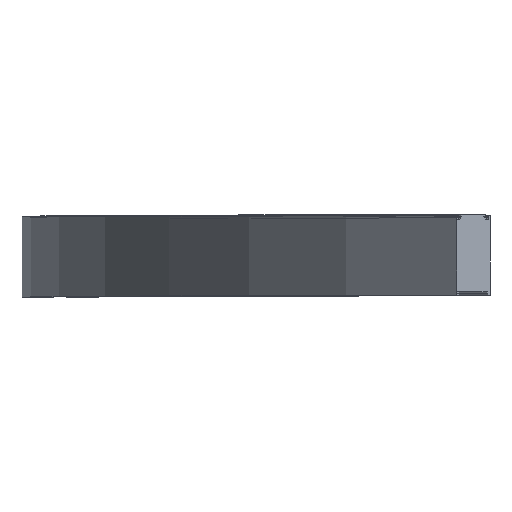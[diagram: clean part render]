
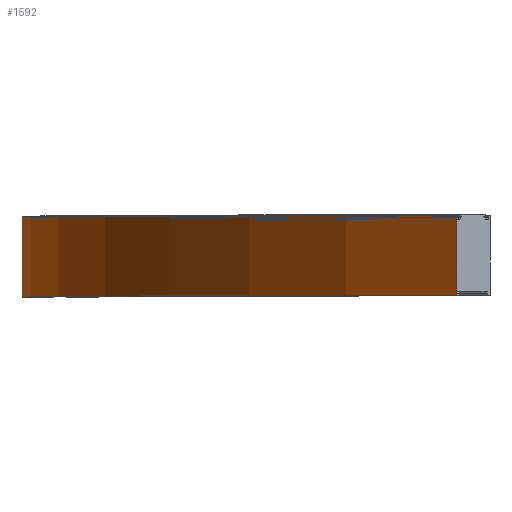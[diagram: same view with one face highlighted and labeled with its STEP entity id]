
A CAD part, top view. The second image highlights one B-rep face of the part: STEP entity #1592.
In plain terms, the highlighted cylindrical face has radius 1473.5 mm (diameter 2947 mm), a partial arc.
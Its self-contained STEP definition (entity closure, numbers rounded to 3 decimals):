
#15 = CARTESIAN_POINT ( 'NONE',  ( 1450., 0.5, 0. ) ) ;
#53 = EDGE_CURVE ( 'NONE', #174, #932, #872, .T. ) ;
#69 = ORIENTED_EDGE ( 'NONE', *, *, #53, .F. ) ;
#124 = VECTOR ( 'NONE', #500, 1000. ) ;
#174 = VERTEX_POINT ( 'NONE', #1028 ) ;
#227 = VECTOR ( 'NONE', #1499, 1000. ) ;
#291 = DIRECTION ( 'NONE',  ( 0., 1., 0. ) ) ;
#300 = EDGE_CURVE ( 'NONE', #1619, #174, #973, .T. ) ;
#371 = CARTESIAN_POINT ( 'NONE',  ( 408.078, 79.5, 1041.922 ) ) ;
#403 = EDGE_CURVE ( 'NONE', #1619, #816, #888, .T. ) ;
#500 = DIRECTION ( 'NONE',  ( 0., -1., 0. ) ) ;
#588 = EDGE_LOOP ( 'NONE', ( #1601, #69, #1460, #1038 ) ) ;
#592 = CYLINDRICAL_SURFACE ( 'NONE', #697, 1473.5 ) ;
#666 = CARTESIAN_POINT ( 'NONE',  ( 408.078, 0.5, 1041.922 ) ) ;
#697 = AXIS2_PLACEMENT_3D ( 'NONE', #1252, #1518, #869 ) ;
#772 = DIRECTION ( 'NONE',  ( -1., 0., 0. ) ) ;
#816 = VERTEX_POINT ( 'NONE', #1131 ) ;
#869 = DIRECTION ( 'NONE',  ( 0., 0., 1. ) ) ;
#872 = LINE ( 'NONE', #371, #124 ) ;
#888 = LINE ( 'NONE', #1098, #227 ) ;
#899 = DIRECTION ( 'NONE',  ( 0., 1., 0. ) ) ;
#932 = VERTEX_POINT ( 'NONE', #666 ) ;
#973 = CIRCLE ( 'NONE', #1421, 1473.5 ) ;
#1028 = CARTESIAN_POINT ( 'NONE',  ( 408.078, 79.5, 1041.922 ) ) ;
#1038 = ORIENTED_EDGE ( 'NONE', *, *, #403, .T. ) ;
#1068 = EDGE_CURVE ( 'NONE', #816, #932, #1190, .T. ) ;
#1098 = CARTESIAN_POINT ( 'NONE',  ( -23.5, 79.5, 0. ) ) ;
#1131 = CARTESIAN_POINT ( 'NONE',  ( -23.5, 0.5, 0. ) ) ;
#1190 = CIRCLE ( 'NONE', #1488, 1473.5 ) ;
#1252 = CARTESIAN_POINT ( 'NONE',  ( 1450., 0., 0. ) ) ;
#1373 = CARTESIAN_POINT ( 'NONE',  ( -23.5, 79.5, 0. ) ) ;
#1421 = AXIS2_PLACEMENT_3D ( 'NONE', #1571, #291, #1574 ) ;
#1460 = ORIENTED_EDGE ( 'NONE', *, *, #300, .F. ) ;
#1488 = AXIS2_PLACEMENT_3D ( 'NONE', #15, #899, #772 ) ;
#1499 = DIRECTION ( 'NONE',  ( 0., -1., 0. ) ) ;
#1518 = DIRECTION ( 'NONE',  ( 0., 1., 0. ) ) ;
#1571 = CARTESIAN_POINT ( 'NONE',  ( 1450., 79.5, 0. ) ) ;
#1574 = DIRECTION ( 'NONE',  ( -1., 0., 0. ) ) ;
#1592 = ADVANCED_FACE ( 'NONE', ( #1609 ), #592, .T. ) ;
#1601 = ORIENTED_EDGE ( 'NONE', *, *, #1068, .T. ) ;
#1609 = FACE_OUTER_BOUND ( 'NONE', #588, .T. ) ;
#1619 = VERTEX_POINT ( 'NONE', #1373 ) ;
